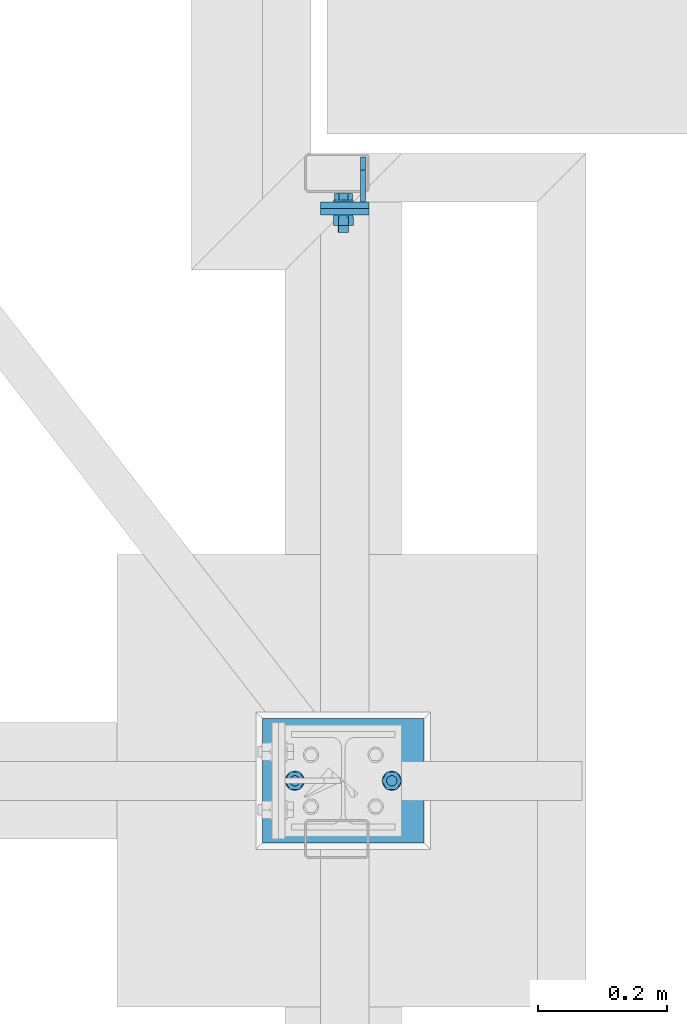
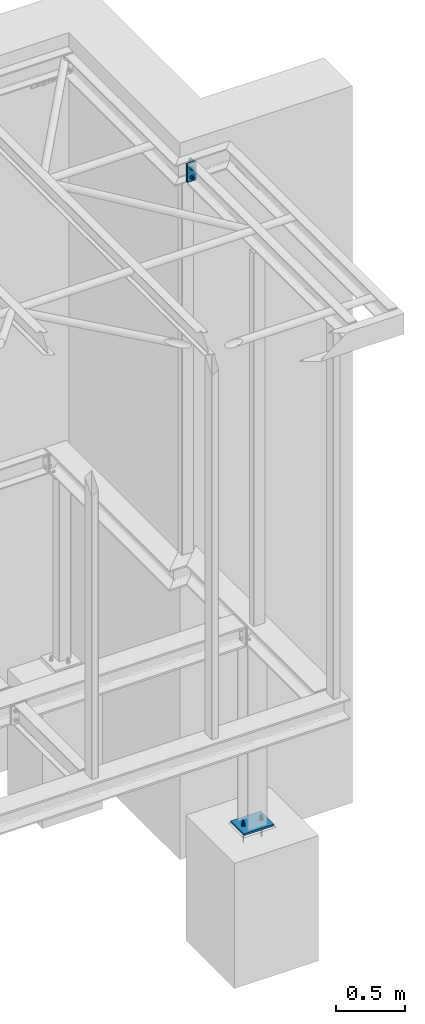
# One storey, part 22 of 23: 4 discrete accessories, 2 mechanical fasteners, 3 elements without a shape of their own.
"""IFC2X3 building model written with IfcOpenShell, lengths in millimetres."""

import ifcopenshell
import ifcopenshell.guid

model = None  # the IFC model being written
_history = None  # IfcOwnerHistory: only IFC2X3 demands one
_inside = {}  # id of a spatial element -> (the spatial element, [elements in it])
_under = {}  # id of a project, library or spatial element -> (it, [spatial elements below it])
_declared = {}  # id of a project -> (the project, [libraries it declares])
_typed = {}  # id of a type object -> (the type object, [elements of that type])
_made_of = {}  # id of a material, layer set ... -> (it, [elements and type objects made of it])


def new_model(schema):
    """Start an empty IFC model of exactly this schema.

    Asked for "IFC4X3", IfcOpenShell would pick the latest addendum, in which some entities
    have other attributes; the version numbers below select the first issue.
    IFC2X3 requires an IfcOwnerHistory on every rooted entity: one is made here for all.
    """
    global model, _history
    if schema == "IFC4X3":
        model = ifcopenshell.file(schema_version=(4, 3, 0, 0))
    else:
        model = ifcopenshell.file(schema=schema)
    _inside.clear()
    _under.clear()
    _declared.clear()
    _typed.clear()
    _made_of.clear()
    _history = None
    if model.schema == "IFC2X3":
        org = make("IfcOrganization", Name="unknown")
        user = make(
            "IfcPersonAndOrganization",
            ThePerson=make("IfcPerson", FamilyName="unknown"),
            TheOrganization=org,
        )
        app = make(
            "IfcApplication",
            ApplicationDeveloper=org,
            Version="unknown",
            ApplicationFullName="unknown",
            ApplicationIdentifier="unknown",
        )
        _history = make(
            "IfcOwnerHistory",
            OwningUser=user,
            OwningApplication=app,
            ChangeAction="ADDED",
            CreationDate=0,
        )
    return model


def make(cls, **values):
    """One entity of the class cls with the attributes given. An attribute that is None is left unset."""
    return model.create_entity(
        cls, **{name: value for name, value in values.items() if value is not None}
    )


def rooted(cls, **values):
    """An entity with a GlobalId (a new one), such as an element, a storey or a relation."""
    return make(cls, GlobalId=ifcopenshell.guid.new(), OwnerHistory=_history, **values)


def si_unit(unit_type, name, prefix=None):
    """IfcSIUnit, for example si_unit("LENGTHUNIT", "METRE", prefix="MILLI")."""
    return make("IfcSIUnit", UnitType=unit_type, Prefix=prefix, Name=name)


def assignment(units):
    """IfcUnitAssignment: the units of a project."""
    return None if units is None else make("IfcUnitAssignment", Units=units)


def point(xyz):
    """IfcCartesianPoint."""
    return None if xyz is None else make("IfcCartesianPoint", Coordinates=xyz)


def direction(xyz):
    """IfcDirection."""
    return None if xyz is None else make("IfcDirection", DirectionRatios=xyz)


def frame(location, z_axis=None, x_axis=None):
    """IfcAxis2Placement3D, a coordinate frame: its origin and axes. An axis left out is left unset."""
    return make(
        "IfcAxis2Placement3D",
        Location=point(location),
        Axis=direction(z_axis),
        RefDirection=direction(x_axis),
    )


def frame_2d(location, x_axis=None):
    """IfcAxis2Placement2D, a coordinate frame in the plane: its origin and x axis."""
    return make(
        "IfcAxis2Placement2D", Location=point(location), RefDirection=direction(x_axis)
    )


def origin_with_axes():
    """The frame at (0, 0, 0) with the z axis (0, 0, 1) and the x axis (1, 0, 0) written out."""
    return frame((0.0, 0.0, 0.0), z_axis=(0.0, 0.0, 1.0), x_axis=(1.0, 0.0, 0.0))


def origin_2d_with_axis():
    """The frame at (0, 0) in the plane with the x axis (1, 0) written out."""
    return frame_2d((0.0, 0.0), x_axis=(1.0, 0.0))


def place(relative_to, where):
    """IfcLocalPlacement: puts the frame where relative to a parent placement (None: the world)."""
    return make(
        "IfcLocalPlacement", PlacementRelTo=relative_to, RelativePlacement=where
    )


def context(
    kind, dimensions, precision=None, world=None, true_north=None, identifier=None
):
    """IfcGeometricRepresentationContext, for example the 3D "Model" context."""
    return make(
        "IfcGeometricRepresentationContext",
        ContextIdentifier=identifier,
        ContextType=kind,
        CoordinateSpaceDimension=dimensions,
        Precision=precision,
        WorldCoordinateSystem=world,
        TrueNorth=true_north,
    )


def subcontext(parent, identifier, kind, view, scale=None):
    """IfcGeometricRepresentationSubContext, for example "Body" below "Model"."""
    return make(
        "IfcGeometricRepresentationSubContext",
        ContextIdentifier=identifier,
        ContextType=kind,
        ParentContext=parent,
        TargetScale=scale,
        TargetView=view,
    )


def project(units=None, contexts=None):
    """IfcProject with its units and contexts."""
    return rooted(
        "IfcProject",
        Name="project",
        RepresentationContexts=contexts,
        UnitsInContext=assignment(units),
    )


def spatial(cls, under=None, at=None, **own):
    """A site, building, storey or space (cls), placed at a placement, below another one or the project."""
    s = rooted(cls, ObjectPlacement=at, **own)
    if under is not None:
        _under.setdefault(under.id(), (under, []))[1].append(s)
    return s


def polyline(points):
    """IfcPolyline through the points."""
    return make("IfcPolyline", Points=[point(p) for p in points])


def circle_curve(where, radius):
    """IfcCircle in the frame where."""
    return make("IfcCircle", Position=where, Radius=radius)


def parameter(value):
    """IfcParameterValue: where a trimmed curve begins or ends, as a parameter of its basis curve."""
    return model.create_entity("IfcParameterValue", value)


def trimmed(basis, trim1, trim2, sense, master):
    """IfcTrimmedCurve: the piece of a basis curve between two trims."""
    return make(
        "IfcTrimmedCurve",
        BasisCurve=basis,
        Trim1=trim1,
        Trim2=trim2,
        SenseAgreement=sense,
        MasterRepresentation=master,
    )


def segment(curve, same_sense, transition):
    """IfcCompositeCurveSegment."""
    return make(
        "IfcCompositeCurveSegment",
        Transition=transition,
        SameSense=same_sense,
        ParentCurve=curve,
    )


def composite_curve(segments, self_intersect=None):
    """IfcCompositeCurve: segments joined end to end."""
    return make("IfcCompositeCurve", Segments=segments, SelfIntersect=self_intersect)


def profile(cls, at=None, kind="AREA", **sizes):
    """A parametric profile (cls). Its sizes go by their IFC names, for example OverallWidth=200.0."""
    return make(cls, ProfileType=kind, Position=at, **sizes)


def circle(**sizes):
    """IfcCircleProfileDef."""
    return profile("IfcCircleProfileDef", **sizes)


def outline(outer, holes=None, kind="AREA"):
    """IfcArbitraryClosedProfileDef: a profile drawn as a closed curve; with holes, ...WithVoids."""
    if holes is None:
        return make("IfcArbitraryClosedProfileDef", ProfileType=kind, OuterCurve=outer)
    return make(
        "IfcArbitraryProfileDefWithVoids",
        ProfileType=kind,
        OuterCurve=outer,
        InnerCurves=holes,
    )


def extrude(swept, where, along, depth):
    """IfcExtrudedAreaSolid: the profile swept, set in the frame where, extruded along a direction by depth."""
    return make(
        "IfcExtrudedAreaSolid",
        SweptArea=swept,
        Position=where,
        ExtrudedDirection=direction(along),
        Depth=depth,
    )


def shape(context_of_items, identifier, shape_type, items):
    """IfcShapeRepresentation: the items that make up one representation, for example the "Body"."""
    return make(
        "IfcShapeRepresentation",
        ContextOfItems=context_of_items,
        RepresentationIdentifier=identifier,
        RepresentationType=shape_type,
        Items=items,
    )


def source(mapping_origin, context_of_items, identifier, shape_type, items):
    """IfcRepresentationMap: a shape defined once, which mapped items show again and again."""
    return make(
        "IfcRepresentationMap",
        MappingOrigin=mapping_origin,
        MappedRepresentation=shape(context_of_items, identifier, shape_type, items),
    )


def transform(
    local_origin,
    x_axis=None,
    y_axis=None,
    z_axis=None,
    scale=None,
    scale2=None,
    scale3=None,
    uniform=True,
):
    """IfcCartesianTransformationOperator3D, or its non-uniform kind. x_axis, y_axis, z_axis: its Axis1, 2, 3."""
    if uniform:
        return make(
            "IfcCartesianTransformationOperator3D",
            Axis1=direction(x_axis),
            Axis2=direction(y_axis),
            LocalOrigin=point(local_origin),
            Scale=scale,
            Axis3=direction(z_axis),
        )
    return make(
        "IfcCartesianTransformationOperator3DnonUniform",
        Axis1=direction(x_axis),
        Axis2=direction(y_axis),
        LocalOrigin=point(local_origin),
        Scale=scale,
        Axis3=direction(z_axis),
        Scale2=scale2,
        Scale3=scale3,
    )


def mapped(mapping_source, mapping_target):
    """IfcMappedItem: shows the shape of a source again, moved by a transform."""
    return make(
        "IfcMappedItem", MappingSource=mapping_source, MappingTarget=mapping_target
    )


def material(Name=None, Category=None):
    """IfcMaterial."""
    return make("IfcMaterial", Name=Name, Category=Category)


def made_of(thing, what):
    """Note that an element or type object is made of a material, layer set ...; save() writes the relation."""
    if what is not None:
        _made_of.setdefault(what.id(), (what, []))[1].append(thing)
    return thing


def type_object(cls, material=None, **own):
    """A type object (cls), such as IfcWallType, which elements share."""
    return made_of(rooted(cls, **own), material)


def element(
    cls,
    number,
    at=None,
    inside=None,
    cuts=None,
    type_object=None,
    material=None,
    context=None,
    identifier="Body",
    shape_type=None,
    held_by="IfcProductDefinitionShape",
    body=None,
    shapes=None,
    **own,
):
    """One element of the class cls, such as IfcWall. Its Tag is "e" and its number.

    at: its placement. inside: the storey or other place that contains it. cuts: it is an
    opening in that element (IfcRelVoidsElement). A single representation is given by context,
    identifier, shape_type and body (its items); several are given by shapes. held_by: the class
    of the entity that holds the representations. save() writes the other relations.
    """
    e = rooted(cls, Tag="e%d" % number, ObjectPlacement=at, **own)
    if body is not None:
        shapes = [shape(context, identifier, shape_type, body)]
    if shapes is not None:
        e.Representation = make(held_by, Representations=shapes)
    if inside is not None:
        _inside.setdefault(inside.id(), (inside, []))[1].append(e)
    if cuts is not None:
        rooted(
            "IfcRelVoidsElement", RelatingBuildingElement=cuts, RelatedOpeningElement=e
        )
    if type_object is not None:
        _typed.setdefault(type_object.id(), (type_object, []))[1].append(e)
    return made_of(e, material)


def aggregate(whole, parts):
    """IfcRelAggregates: a whole, such as a stair, and the parts it consists of."""
    return rooted("IfcRelAggregates", RelatingObject=whole, RelatedObjects=parts)


def save(model, path):
    """Write the relations noted so far, then the file.

    IfcRelAggregates (storeys below a building ...), IfcRelContainedInSpatialStructure (elements
    in a storey), IfcRelDefinesByType, IfcRelAssociatesMaterial and IfcRelDeclares: one each for
    every whole, place, type object, material and project.
    """
    for whole, parts in _under.values():
        aggregate(whole, parts)
    for where, things in _inside.values():
        rooted(
            "IfcRelContainedInSpatialStructure",
            RelatedElements=things,
            RelatingStructure=where,
        )
    for kind, things in _typed.values():
        rooted("IfcRelDefinesByType", RelatedObjects=things, RelatingType=kind)
    for what, things in _made_of.values():
        rooted("IfcRelAssociatesMaterial", RelatedObjects=things, RelatingMaterial=what)
    for by, libraries in _declared.values():
        rooted("IfcRelDeclares", RelatingContext=by, RelatedDefinitions=libraries)
    model.write(path)


model = new_model("IFC2X3")

# Units and contexts
model_context = context("Model", 3, precision=1e-05, world=origin_with_axes())
body_context = subcontext(model_context, "Body", "Model", "MODEL_VIEW")
ifc_project = project(units=[si_unit("LENGTHUNIT", "METRE", prefix="MILLI"), si_unit("AREAUNIT", "SQUARE_METRE"), si_unit("VOLUMEUNIT", "CUBIC_METRE"), si_unit("MASSUNIT", "GRAM", prefix="KILO"), si_unit("TIMEUNIT", "SECOND"), si_unit("PLANEANGLEUNIT", "RADIAN"), si_unit("SOLIDANGLEUNIT", "STERADIAN"), si_unit("THERMODYNAMICTEMPERATUREUNIT", "DEGREE_CELSIUS"), si_unit("LUMINOUSINTENSITYUNIT", "LUMEN")], contexts=[model_context])

# Site, building, storey
site_placement = place(None, origin_with_axes())
site = spatial("IfcSite", under=ifc_project, at=site_placement, Name="Undefined", CompositionType="ELEMENT")
building_placement = place(site_placement, origin_with_axes())
building = spatial("IfcBuilding", under=site, at=building_placement, Name="Undefined", CompositionType="ELEMENT")
storey_placement = place(building_placement, origin_with_axes())
storey = spatial("IfcBuildingStorey", under=building, at=storey_placement, Name="Undefined", CompositionType="ELEMENT", Elevation=0.0)

# Assembly, mechanical fastener, discrete accessory
assembly_1_placement = place(storey_placement, origin_with_axes())
assembly_1 = element("IfcElementAssembly", 1, at=assembly_1_placement, inside=storey, Name="Steel Assembly", AssemblyPlace="NOTDEFINED", PredefinedType="RIGID_FRAME")
ifc_material_1 = material(Name="Undefined")
discrete_accessory_type_1 = type_object("IfcDiscreteAccessoryType", Name="Bolt assembly")
shared_shape_1 = source(origin_with_axes(), body_context, "Body", "SweptSolid", [
    extrude(circle(Radius=9.0, at=origin_2d_with_axis()), frame((0.0, -10.1, 0.0), z_axis=(0.0, 1.0, 0.0), x_axis=(1.0, 0.0, 0.0)), (0.0, 0.0, 1.0), 10.1),
    extrude(circle(Radius=9.0, at=origin_2d_with_axis()), frame((0.0, -19.9, 0.0), z_axis=(0.0, 1.0, 0.0), x_axis=(1.0, 0.0, 0.0)), (0.0, 0.0, 1.0), 10.0),
    extrude(outline(polyline([(13.85640646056, 0.0), (6.92820323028, 12.0000000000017), (-6.92820323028, 12.0000000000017), (-13.85640646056, 0.0), (-6.92820323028, -12.0000000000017), (6.92820323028, -12.0000000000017), (13.85640646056, 0.0)])), frame((0.0, -33.0, 0.0), z_axis=(0.0, 1.0, 0.0), x_axis=(1.0, 0.0, 0.0)), (0.0, 0.0, 1.0), 10.0),
    extrude(circle(Radius=8.0, at=origin_2d_with_axis()), frame((0.0, -23.0, 0.0), z_axis=(0.0, 1.0, 0.0), x_axis=(1.0, 0.0, 0.0)), (0.0, 0.0, 1.0), 50.0),
    extrude(circle(Radius=15.0, at=origin_2d_with_axis()), frame((0.0, -23.0, 0.0), z_axis=(0.0, 1.0, 0.0), x_axis=(1.0, 0.0, 0.0)), (0.0, 0.0, 1.0), 3.0),
    extrude(circle(Radius=15.0, at=origin_2d_with_axis()), frame((0.0, 0.0, 0.0), z_axis=(0.0, 1.0, 0.0), x_axis=(1.0, 0.0, 0.0)), (0.0, 0.0, 1.0), 3.0),
    extrude(outline(polyline([(15.4441197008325, 0.0), (7.72205985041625, 13.3750000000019), (-7.72205985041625, 13.3750000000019), (-15.4441197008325, 0.0), (-7.72205985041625, -13.3750000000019), (7.72205985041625, -13.3750000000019), (15.4441197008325, 0.0)])), frame((0.0, 3.0, 0.0), z_axis=(0.0, 1.0, 0.0), x_axis=(1.0, 0.0, 0.0)), (0.0, 0.0, 1.0), 13.0),
])
mechanical_fastener_1_placement = place(assembly_1_placement, frame((16050.0, 2135.0, 3210.0), z_axis=(0.0, 0.0, -1.0), x_axis=(1.0, 0.0, 0.0)))
mechanical_fastener_1 = element("IfcMechanicalFastener", 2, at=mechanical_fastener_1_placement, type_object=discrete_accessory_type_1, material=ifc_material_1, Name="Bolt assembly", NominalDiameter=16.0, NominalLength=50.0, context=body_context, shape_type="MappedRepresentation", body=[
    mapped(shared_shape_1, transform((0.0, 0.0, 40.0))),
    mapped(shared_shape_1, transform((0.0, 0.0, -40.0))),
])
ifc_material_2 = material(Name="STEEL/S235JR")
discrete_accessory_type_2 = type_object("IfcDiscreteAccessoryType", Name="PLECH")
discrete_accessory_1_placement = place(assembly_1_placement, frame((16080.5, 2155.0, 3289.5), z_axis=(-1.0, 0.0, 0.0), x_axis=(0.0, 1.0, 0.0)))
discrete_accessory_1 = element("IfcDiscreteAccessory", 3, at=discrete_accessory_1_placement, type_object=discrete_accessory_type_2, material=ifc_material_2, Name="PLECH", ObjectType="PL8*70", context=body_context, shape_type="SweptSolid", body=[
    extrude(outline(composite_curve([segment(polyline([(0.0, 0.0), (49.5, 0.0)]), True, "CONTINUOUS"), segment(trimmed(circle_curve(frame_2d((69.5, 0.0), x_axis=(-1.0, 0.0)), 20.0), [parameter(0.0)], [parameter(4.71238898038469)], False, "PARAMETER"), True, "CONTINUOUS"), segment(polyline([(69.5, 20.0), (69.5, 139.0)]), True, "CONTINUOUS"), segment(trimmed(circle_curve(frame_2d((69.5, 159.0), x_axis=(0.0, -1.0)), 20.0), [parameter(0.0)], [parameter(4.71238898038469)], False, "PARAMETER"), True, "CONTINUOUS"), segment(polyline([(49.5, 159.0), (0.0, 159.0), (0.0, 0.0)]), True, "DISCONTINUOUS")], self_intersect=False)), frame((0.0, 0.0, -4.0), z_axis=(0.0, 0.0, 1.0), x_axis=(1.0, 0.0, 0.0)), (0.0, 0.0, 1.0), 8.0),
])

# Assembly, discrete accessory
assembly_2_placement = place(storey_placement, origin_with_axes())
assembly_2 = element("IfcElementAssembly", 4, at=assembly_2_placement, inside=storey, Name="Steel Assembly", AssemblyPlace="NOTDEFINED", PredefinedType="RIGID_FRAME")
discrete_accessory_2_placement = place(assembly_2_placement, frame((16015.0, 2140.0, 3130.0), z_axis=(0.0, 1.0, 0.0), x_axis=(0.0, 0.0, 1.0)))
discrete_accessory_2 = element("IfcDiscreteAccessory", 5, at=discrete_accessory_2_placement, type_object=discrete_accessory_type_2, material=ifc_material_2, Name="PLECH", ObjectType="PL10*75", context=body_context, shape_type="SweptSolid", body=[
    extrude(outline(polyline([(0.0, 0.0), (160.0, 0.0), (160.0, 75.0), (0.0, 75.0), (0.0, 0.0)])), frame((0.0, 0.0, -5.0), z_axis=(0.0, 0.0, 1.0), x_axis=(1.0, 0.0, 0.0)), (0.0, 0.0, 1.0), 10.0),
])
aggregate(assembly_2, [discrete_accessory_2])

# Discrete accessory
discrete_accessory_3_placement = place(assembly_1_placement, frame((16015.0, 2150.0, 3130.0), z_axis=(0.0, 1.0, 0.0), x_axis=(0.0, 0.0, 1.0)))
discrete_accessory_3 = element("IfcDiscreteAccessory", 6, at=discrete_accessory_3_placement, type_object=discrete_accessory_type_2, material=ifc_material_2, Name="PLECH", ObjectType="PL10*75", context=body_context, shape_type="SweptSolid", body=[
    extrude(outline(polyline([(0.0, 0.0), (160.0, 0.0), (160.0, 75.0), (0.0, 75.0), (0.0, 0.0)])), frame((0.0, 0.0, -5.0), z_axis=(0.0, 0.0, 1.0), x_axis=(1.0, 0.0, 0.0)), (0.0, 0.0, 1.0), 10.0),
])

aggregate(assembly_1, [mechanical_fastener_1, discrete_accessory_1, discrete_accessory_3])

# Assembly, discrete accessory, mechanical fastener
assembly_3_placement = place(storey_placement, origin_with_axes())
assembly_3 = element("IfcElementAssembly", 7, at=assembly_3_placement, inside=storey, Name="Steel Assembly", AssemblyPlace="NOTDEFINED", PredefinedType="RIGID_FRAME")
discrete_accessory_4_placement = place(assembly_3_placement, frame((16175.0, 1356.0, -1982.5), z_axis=(0.0, 0.0, 1.0), x_axis=(-1.0, 0.0, 0.0)))
discrete_accessory_4 = element("IfcDiscreteAccessory", 8, at=discrete_accessory_4_placement, type_object=discrete_accessory_type_2, material=ifc_material_2, Name="PLECH", ObjectType="PL15*192", context=body_context, shape_type="SweptSolid", body=[
    extrude(outline(polyline([(0.0, 0.0), (250.0, 0.0), (250.0, 192.0), (0.0, 192.0), (0.0, 0.0)])), frame((0.0, 0.0, -7.5), z_axis=(0.0, 0.0, 1.0), x_axis=(1.0, 0.0, 0.0)), (0.0, 0.0, 1.0), 15.0),
])
shared_shape_2 = source(origin_with_axes(), body_context, "Body", "SweptSolid", [
    extrude(circle(Radius=9.0, at=origin_2d_with_axis()), frame((0.0, -15.0, 0.0), z_axis=(0.0, 1.0, 0.0), x_axis=(1.0, 0.0, 0.0)), (0.0, 0.0, 1.0), 15.1),
    extrude(outline(polyline([(7.73649338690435, 0.0), (3.86824669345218, 6.69999980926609), (-3.86824669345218, 6.69999980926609), (-7.73649338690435, 0.0), (-3.86824669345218, -6.69999980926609), (3.86824669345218, -6.69999980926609), (7.73649338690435, 0.0)])), frame((0.0, -147.0, 0.0), z_axis=(0.0, 1.0, 0.0), x_axis=(1.0, 0.0, 0.0)), (0.0, 0.0, 1.0), 132.0),
    extrude(circle(Radius=8.0, at=origin_2d_with_axis()), frame((0.0, -15.0, 0.0), z_axis=(0.0, 1.0, 0.0), x_axis=(1.0, 0.0, 0.0)), (0.0, 0.0, 1.0), 58.0),
    extrude(circle(Radius=15.0, at=origin_2d_with_axis()), frame((0.0, 0.0, 0.0), z_axis=(0.0, 1.0, 0.0), x_axis=(1.0, 0.0, 0.0)), (0.0, 0.0, 1.0), 3.0),
    extrude(outline(polyline([(15.4441197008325, 0.0), (7.72205985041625, 13.3750000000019), (-7.72205985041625, 13.3750000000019), (-15.4441197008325, 0.0), (-7.72205985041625, -13.3750000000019), (7.72205985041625, -13.3750000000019), (15.4441197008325, 0.0)])), frame((0.0, 3.0, 0.0), z_axis=(0.0, 1.0, 0.0), x_axis=(1.0, 0.0, 0.0)), (0.0, 0.0, 1.0), 13.0),
])
mechanical_fastener_2_placement = place(assembly_3_placement, frame((15975.0, 1260.0, -1975.0), z_axis=(0.0, -1.0, 0.0), x_axis=(1.0, 0.0, 0.0)))
mechanical_fastener_2 = element("IfcMechanicalFastener", 9, at=mechanical_fastener_2_placement, type_object=discrete_accessory_type_1, material=ifc_material_1, Name="Bolt assembly", NominalDiameter=16.0, NominalLength=58.0, context=body_context, shape_type="MappedRepresentation", body=[
    mapped(shared_shape_2, transform((0.0, 0.0, 0.0))),
    mapped(shared_shape_2, transform((150.0, 0.0, 0.0))),
])
aggregate(assembly_3, [mechanical_fastener_2, discrete_accessory_4])

save(model, "model.ifc")
